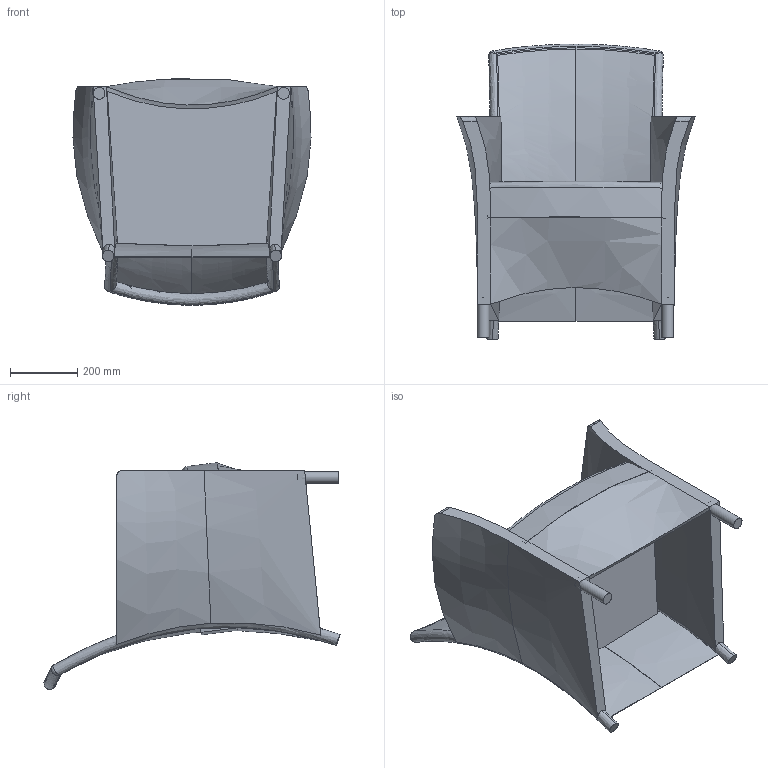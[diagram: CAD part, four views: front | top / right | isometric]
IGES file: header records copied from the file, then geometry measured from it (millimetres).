
Global section: file name: VincentSheppard_Sydney; native system: unknown; preprocessor: unknown; author: ict@vincentsheppard.com; organization: unknown; date: 20180522.140553; units: millimetre
Bounding box: 709.93 x 882.95 x 676.18 mm (x, y, z)
Volume: 62161395.8 mm3; surface area: 3689779.8 mm2
Topology: 4 solids, 4 shells, 79 faces, 463 edges, 363 vertices
Faces by surface type: bspline 79
